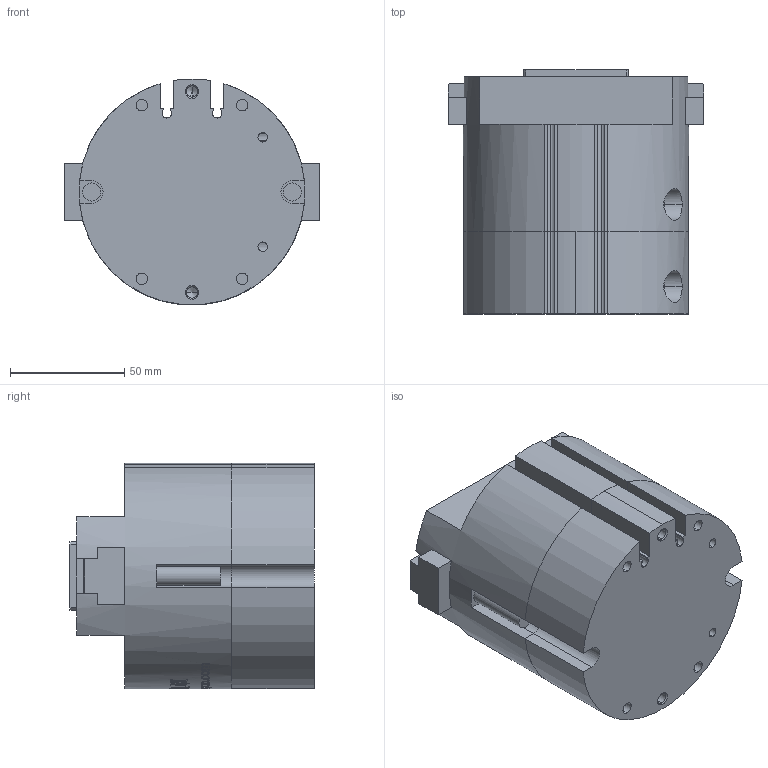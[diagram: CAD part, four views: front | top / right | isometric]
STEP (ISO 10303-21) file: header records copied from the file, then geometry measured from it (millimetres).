
FILE_DESCRIPTION (( 'STEP AP203' ), '1' );
FILE_NAME ('OPM-100-C2-MC&MA-原始檔-組合-W106.04.18.STEP', '2017-04-18T06:52:55', ( 'DanyaoCAD' ), ( '' ), 'SwSTEP 2.0', 'SolidWorks 2016', '' );
FILE_SCHEMA (( 'CONFIG_CONTROL_DESIGN' ));
Length unit declared in the file: millimetre
Products named in the file (4): Griffa; Corpo; Fondello; OPM-100-C2-MC&MA-原始檔-組合-W106.04.18
Assembly tree (4 placements, depth 2):
  OPM-100-C2-MC&MA-原始檔-組合-W106.04.18
    Griffa  x2
    Corpo
    Fondello
Bounding box: 112 x 107 x 99 mm (x, y, z)
Volume: 706785 mm3; surface area: 96582.9 mm2
Topology: 4 solids, 4 shells, 1016 faces, 2824 edges, 1872 vertices
Faces by surface type: bspline 665, plane 203, cylinder 128, cone 20
Entity records: 100457 total; most frequent: CARTESIAN_POINT 80560, ORIENTED_EDGE 5480, EDGE_CURVE 2740, B_SPLINE_CURVE_WITH_KNOTS 2046, VERTEX_POINT 1822, DIRECTION 1578, EDGE_LOOP 1064, ADVANCED_FACE 985
